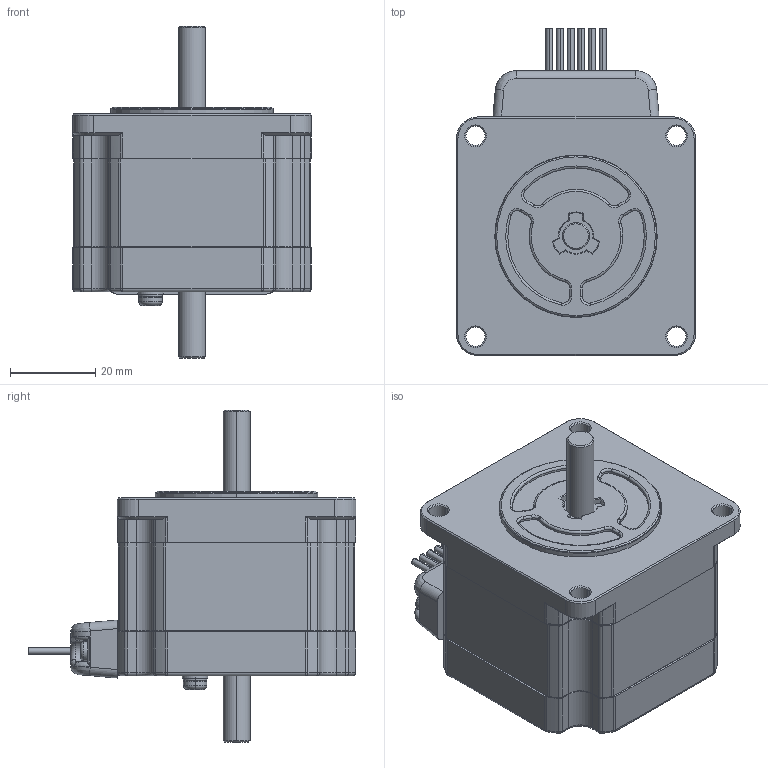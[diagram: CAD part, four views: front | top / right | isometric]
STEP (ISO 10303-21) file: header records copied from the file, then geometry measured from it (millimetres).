
FILE_DESCRIPTION (( 'STEP AP203' ), '1' );
FILE_NAME ('103H7121-6110.STEP', '2014-01-06T08:37:33', ( ' ' ), ( '' ), 'SwSTEP 2.0', 'SolidWorks 2012', '' );
FILE_SCHEMA (( 'CONFIG_CONTROL_DESIGN' ));
Length unit declared in the file: millimetre
Products named in the file (1): 103H7121-6110
Bounding box: 56 x 76.9 x 77.9 mm (x, y, z)
Volume: 126238.3 mm3; surface area: 17957.1 mm2
Topology: 1 solids, 1 shells, 567 faces, 1387 edges, 844 vertices
Faces by surface type: cylinder 209, plane 184, cone 102, torus 64, bspline 8
Entity records: 17034 total; most frequent: CARTESIAN_POINT 3379, DIRECTION 3039, ORIENTED_EDGE 2774, EDGE_CURVE 1387, AXIS2_PLACEMENT_3D 1180, VERTEX_POINT 844, VECTOR 679, LINE 679
